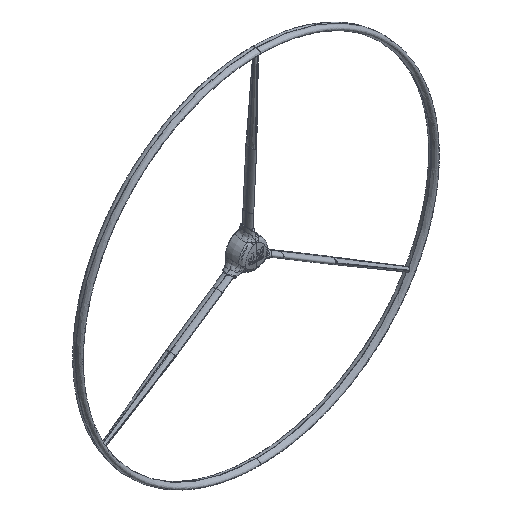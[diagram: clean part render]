
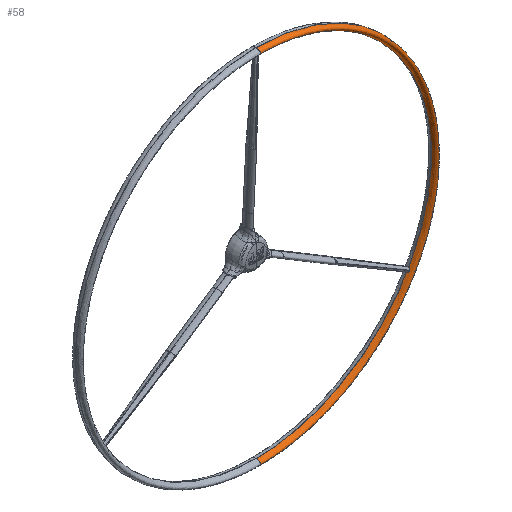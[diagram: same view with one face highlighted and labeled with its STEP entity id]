
A CAD part, isometric view. The second image highlights one B-rep face of the part: STEP entity #58.
In plain terms, the highlighted free-form (B-spline) face has degree [2, 2] with [5, 5] control points.
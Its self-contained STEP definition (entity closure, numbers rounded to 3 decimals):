
#58=ADVANCED_FACE('',(#322),#3146,.T.);
#322=FACE_OUTER_BOUND('',#551,.T.);
#551=EDGE_LOOP('',(#819,#820,#821,#822));
#819=ORIENTED_EDGE('',*,*,#2028,.T.);
#820=ORIENTED_EDGE('',*,*,#2022,.F.);
#821=ORIENTED_EDGE('',*,*,#2026,.F.);
#822=ORIENTED_EDGE('',*,*,#2024,.T.);
#2022=EDGE_CURVE('',#2683,#2688,#3663,.T.);
#2024=EDGE_CURVE('',#2685,#2687,#3664,.T.);
#2026=EDGE_CURVE('',#2685,#2683,#3665,.T.);
#2028=EDGE_CURVE('',#2687,#2688,#3667,.T.);
#2683=VERTEX_POINT('',#4559);
#2685=VERTEX_POINT('',#4561);
#2687=VERTEX_POINT('',#4563);
#2688=VERTEX_POINT('',#4564);
#3146=(
BOUNDED_SURFACE()
B_SPLINE_SURFACE(2,2,((#4269,#4270,#4271,#4272,#4273),(#4274,#4275,#4276,
#4277,#4278),(#4279,#4280,#4281,#4282,#4283),(#4284,#4285,#4286,#4287,#4288),
(#4289,#4290,#4291,#4292,#4293)),.UNSPECIFIED.,.F.,.F.,.F.)
B_SPLINE_SURFACE_WITH_KNOTS((3,2,3),(3,2,3),(0.,1.571,3.142),
(0.,3.142,6.283),.UNSPECIFIED.)
GEOMETRIC_REPRESENTATION_ITEM()
RATIONAL_B_SPLINE_SURFACE(((1.,0.707,1.,0.707,1.),
(0.707,0.5,0.707,0.5,0.707),(1.,0.707,
1.,0.707,1.),(0.707,0.5,0.707,0.5,0.707),
(1.,0.707,1.,0.707,1.)))
REPRESENTATION_ITEM('')
SURFACE()
);
#3663=(
BOUNDED_CURVE()
B_SPLINE_CURVE(2,(#4125,#4126,#4127,#4128,#4129),.UNSPECIFIED.,.F.,.F.)
B_SPLINE_CURVE_WITH_KNOTS((3,2,3),(0.,1.571,3.142),
.UNSPECIFIED.)
CURVE()
GEOMETRIC_REPRESENTATION_ITEM()
RATIONAL_B_SPLINE_CURVE((1.,0.707,1.,0.707,1.))
REPRESENTATION_ITEM('')
);
#3664=(
BOUNDED_CURVE()
B_SPLINE_CURVE(2,(#4154,#4155,#4156,#4157,#4158),.UNSPECIFIED.,.F.,.F.)
B_SPLINE_CURVE_WITH_KNOTS((3,2,3),(0.,1.571,3.142),
.UNSPECIFIED.)
CURVE()
GEOMETRIC_REPRESENTATION_ITEM()
RATIONAL_B_SPLINE_CURVE((1.,0.707,1.,0.707,1.))
REPRESENTATION_ITEM('')
);
#3665=(
BOUNDED_CURVE()
B_SPLINE_CURVE(2,(#4183,#4184,#4185,#4186,#4187),.UNSPECIFIED.,.F.,.F.)
B_SPLINE_CURVE_WITH_KNOTS((3,2,3),(0.,3.142,6.283),
.UNSPECIFIED.)
CURVE()
GEOMETRIC_REPRESENTATION_ITEM()
RATIONAL_B_SPLINE_CURVE((1.,0.707,1.,0.707,1.))
REPRESENTATION_ITEM('')
);
#3667=(
BOUNDED_CURVE()
B_SPLINE_CURVE(2,(#4193,#4194,#4195,#4196,#4197),.UNSPECIFIED.,.F.,.F.)
B_SPLINE_CURVE_WITH_KNOTS((3,2,3),(0.,3.142,6.283),
.UNSPECIFIED.)
CURVE()
GEOMETRIC_REPRESENTATION_ITEM()
RATIONAL_B_SPLINE_CURVE((1.,0.707,1.,0.707,1.))
REPRESENTATION_ITEM('')
);
#4125=CARTESIAN_POINT('',(0.,-26.5,-600.));
#4126=CARTESIAN_POINT('',(0.,-42.,-600.));
#4127=CARTESIAN_POINT('',(0.,-42.,-591.));
#4128=CARTESIAN_POINT('',(0.,-42.,-582.));
#4129=CARTESIAN_POINT('',(0.,-26.5,-582.));
#4154=CARTESIAN_POINT('',(0.,-26.5,600.));
#4155=CARTESIAN_POINT('',(0.,-42.,600.));
#4156=CARTESIAN_POINT('',(0.,-42.,591.));
#4157=CARTESIAN_POINT('',(0.,-42.,582.));
#4158=CARTESIAN_POINT('',(0.,-26.5,582.));
#4183=CARTESIAN_POINT('',(0.,-26.5,600.));
#4184=CARTESIAN_POINT('',(600.,-26.5,600.));
#4185=CARTESIAN_POINT('',(600.,-26.5,0.));
#4186=CARTESIAN_POINT('',(600.,-26.5,-600.));
#4187=CARTESIAN_POINT('',(0.,-26.5,-600.));
#4193=CARTESIAN_POINT('',(0.,-26.5,582.));
#4194=CARTESIAN_POINT('',(582.,-26.5,582.));
#4195=CARTESIAN_POINT('',(582.,-26.5,0.));
#4196=CARTESIAN_POINT('',(582.,-26.5,-582.));
#4197=CARTESIAN_POINT('',(0.,-26.5,-582.));
#4269=CARTESIAN_POINT('',(0.,-26.5,600.));
#4270=CARTESIAN_POINT('',(600.,-26.5,600.));
#4271=CARTESIAN_POINT('',(600.,-26.5,0.));
#4272=CARTESIAN_POINT('',(600.,-26.5,-600.));
#4273=CARTESIAN_POINT('',(0.,-26.5,-600.));
#4274=CARTESIAN_POINT('',(0.,-42.,600.));
#4275=CARTESIAN_POINT('',(600.,-42.,600.));
#4276=CARTESIAN_POINT('',(600.,-42.,0.));
#4277=CARTESIAN_POINT('',(600.,-42.,-600.));
#4278=CARTESIAN_POINT('',(0.,-42.,-600.));
#4279=CARTESIAN_POINT('',(0.,-42.,591.));
#4280=CARTESIAN_POINT('',(591.,-42.,591.));
#4281=CARTESIAN_POINT('',(591.,-42.,0.));
#4282=CARTESIAN_POINT('',(591.,-42.,-591.));
#4283=CARTESIAN_POINT('',(0.,-42.,-591.));
#4284=CARTESIAN_POINT('',(0.,-42.,582.));
#4285=CARTESIAN_POINT('',(582.,-42.,582.));
#4286=CARTESIAN_POINT('',(582.,-42.,0.));
#4287=CARTESIAN_POINT('',(582.,-42.,-582.));
#4288=CARTESIAN_POINT('',(0.,-42.,-582.));
#4289=CARTESIAN_POINT('',(0.,-26.5,582.));
#4290=CARTESIAN_POINT('',(582.,-26.5,582.));
#4291=CARTESIAN_POINT('',(582.,-26.5,0.));
#4292=CARTESIAN_POINT('',(582.,-26.5,-582.));
#4293=CARTESIAN_POINT('',(0.,-26.5,-582.));
#4559=CARTESIAN_POINT('',(0.,-26.5,-600.));
#4561=CARTESIAN_POINT('',(0.,-26.5,600.));
#4563=CARTESIAN_POINT('',(0.,-26.5,582.));
#4564=CARTESIAN_POINT('',(0.,-26.5,-582.));
